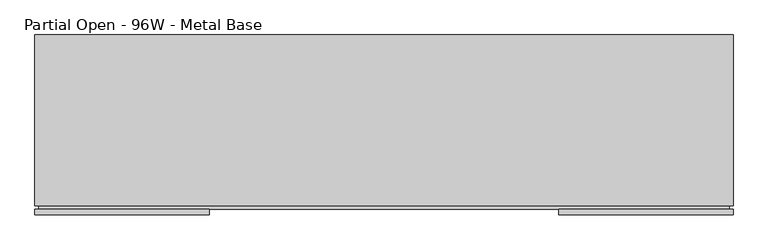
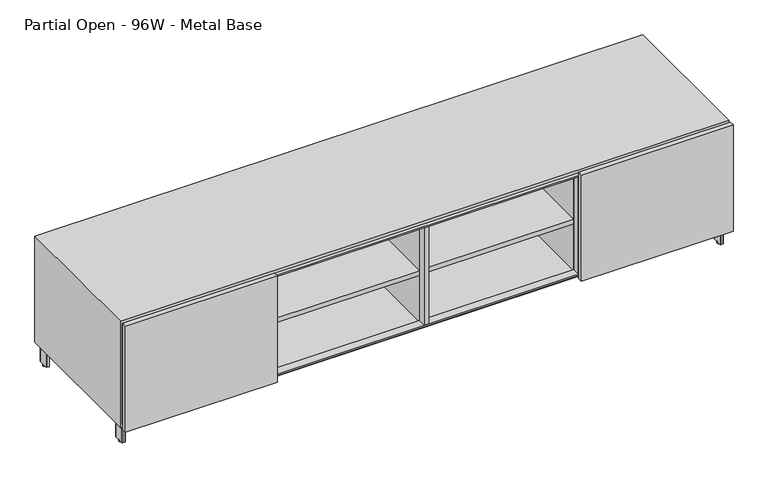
"""IFC4 building model written with IfcOpenShell, lengths in millimetres: furniture geometry, Steelcase Coalesse - Exponents - Storage - Credenza - 21H : Partial Open - 96W - Metal Base."""

from ifc_helpers import new_model, si_unit, point, frame, frame_2d, origin, origin_with_axes, place, context, project, spatial, polyline, circle_curve, trimmed, segment, composite_curve, outline, extrude, faceted_brep, source, transform, mapped, element, save


def partial_open_96w_metal_base_433a793f(model_context):
    return source(origin(), model_context, "Body", "SolidModel", [
        faceted_brep([(6.35, 31.75, 520.7), (6.35, 31.75, 95.25), (6.35, 622.3, 95.25), (6.35, 622.3, 520.7), (2432.05, 622.3, 95.25), (2432.05, 622.3, 520.7), (2432.05, 31.75, 95.25), (2432.05, 31.75, 520.7), (0.0, 31.75, 82.55), (2438.4, 31.75, 82.55), (2438.4, 31.75, 533.4), (0.0, 31.75, 533.4), (2438.4, 628.65, 82.55), (2438.4, 628.65, 533.4), (0.0, 628.65, 82.55), (0.0, 628.65, 533.4)], [[[0, 1, 2, 3]], [[3, 2, 4, 5]], [[5, 4, 6, 7]], [[8, 9, 10, 11], [7, 6, 1, 0]], [[10, 9, 12, 13]], [[13, 12, 14, 15]], [[15, 14, 8, 11]], [[7, 0, 3, 5]], [[10, 13, 15, 11]], [[1, 6, 4, 2]], [[12, 9, 8, 14]]]),
        extrude(outline(composite_curve([segment(polyline([(2414.7506426, 615.95), (2423.922, 615.95)]), True, "CONTINUOUS"), segment(trimmed(circle_curve(frame_2d((2423.922, 614.172)), 1.778), [point((2423.922, 615.95))], [point((2425.7, 614.172))], False, "CARTESIAN"), True, "CONTINUOUS"), segment(polyline([(2425.7, 614.172), (2425.7, 572.9986)]), True, "CONTINUOUS"), segment(trimmed(circle_curve(frame_2d((2423.922, 572.9986)), 1.778), [point((2425.7, 572.9986))], [point((2423.922, 571.2206))], False, "CARTESIAN"), True, "CONTINUOUS"), segment(polyline([(2423.922, 571.2206), (2414.7948916, 571.2206)]), True, "CONTINUOUS"), segment(trimmed(circle_curve(frame_2d((2414.7948916, 573.0154916)), 1.7948916), [point((2414.7948916, 571.2206))], [point((2413.0, 573.0154916))], False, "CARTESIAN"), True, "CONTINUOUS"), segment(polyline([(2413.0, 573.0154916), (2413.0, 614.1993574)]), True, "CONTINUOUS"), segment(trimmed(circle_curve(frame_2d((2414.7506426, 614.1993574)), 1.7506426), [point((2413.0, 614.1993574))], [point((2414.7506426, 615.95))], False, "CARTESIAN"), True, "CONTINUOUS")], self_intersect=False)), frame((0.0, 0.0, 6.35), z_axis=(0.0, 0.0, 1.0), x_axis=(1.0, 0.0, 0.0)), (0.0, 0.0, 1.0), 73.4568),
        extrude(outline(composite_curve([segment(polyline([(2414.7506426, 88.9), (2423.922, 88.9)]), True, "CONTINUOUS"), segment(trimmed(circle_curve(frame_2d((2423.922, 87.122)), 1.778), [point((2423.922, 88.9))], [point((2425.7, 87.122))], False, "CARTESIAN"), True, "CONTINUOUS"), segment(polyline([(2425.7, 87.122), (2425.7, 45.9486)]), True, "CONTINUOUS"), segment(trimmed(circle_curve(frame_2d((2423.922, 45.9486)), 1.778), [point((2425.7, 45.9486))], [point((2423.922, 44.1706))], False, "CARTESIAN"), True, "CONTINUOUS"), segment(polyline([(2423.922, 44.1706), (2414.7948916, 44.1706)]), True, "CONTINUOUS"), segment(trimmed(circle_curve(frame_2d((2414.7948916, 45.9654916)), 1.7948916), [point((2414.7948916, 44.1706))], [point((2413.0, 45.9654916))], False, "CARTESIAN"), True, "CONTINUOUS"), segment(polyline([(2413.0, 45.9654916), (2413.0, 87.1493574)]), True, "CONTINUOUS"), segment(trimmed(circle_curve(frame_2d((2414.7506426, 87.1493574)), 1.7506426), [point((2413.0, 87.1493574))], [point((2414.7506426, 88.9))], False, "CARTESIAN"), True, "CONTINUOUS")], self_intersect=False)), frame((0.0, 0.0, 6.35), z_axis=(0.0, 0.0, 1.0), x_axis=(1.0, 0.0, 0.0)), (0.0, 0.0, 1.0), 73.4568),
        extrude(outline(composite_curve([segment(trimmed(circle_curve(frame_2d((2419.35, 593.5667033)), 6.35), [point((2419.35, 599.9167033))], [point((2419.35, 587.2167033))], False, "CARTESIAN"), True, "CONTINUOUS"), segment(trimmed(circle_curve(frame_2d((2419.35, 593.5667033)), 6.35), [point((2419.35, 587.2167033))], [point((2419.35, 599.9167033))], False, "CARTESIAN"), True, "CONTINUOUS")], self_intersect=False)), origin_with_axes(), (0.0, 0.0, 1.0), 6.35),
        extrude(outline(composite_curve([segment(trimmed(circle_curve(frame_2d((2419.35, 66.7867854)), 6.35), [point((2419.35, 73.1367854))], [point((2419.35, 60.4367854))], False, "CARTESIAN"), True, "CONTINUOUS"), segment(trimmed(circle_curve(frame_2d((2419.35, 66.7867854)), 6.35), [point((2419.35, 60.4367854))], [point((2419.35, 73.1367854))], False, "CARTESIAN"), True, "CONTINUOUS")], self_intersect=False)), origin_with_axes(), (0.0, 0.0, 1.0), 6.35),
        extrude(outline(polyline([(1879.6, 379.0696809), (1879.6, 277.4696809), (1778.0, 277.4696809), (1778.0, 379.0696809), (1879.6, 379.0696809)])), frame((0.0, 0.0, 79.8068), z_axis=(0.0, 0.0, 1.0), x_axis=(1.0, 0.0, 0.0)), (0.0, 0.0, 1.0), 2.7432),
        extrude(outline(polyline([(520.7, 2425.7), (520.7, 12.7), (95.25, 12.7), (95.25, 2425.7), (520.7, 2425.7)]), holes=[polyline([(514.35, 2419.35), (101.6, 2419.35), (101.6, 19.05), (514.35, 19.05), (514.35, 2419.35)])]), frame((0.0, 19.05, 0.0), z_axis=(0.0, 1.0, 0.0), x_axis=(0.0, 0.0, 1.0)), (0.0, 0.0, 1.0), 31.75),
        extrude(outline(composite_curve([segment(polyline([(1821.0256426, 349.25), (1836.547, 349.25)]), True, "CONTINUOUS"), segment(trimmed(circle_curve(frame_2d((1836.547, 347.472)), 1.778), [point((1836.547, 349.25))], [point((1838.325, 347.472))], False, "CARTESIAN"), True, "CONTINUOUS"), segment(polyline([(1838.325, 347.472), (1838.325, 312.928)]), True, "CONTINUOUS"), segment(trimmed(circle_curve(frame_2d((1836.547, 312.928)), 1.778), [point((1838.325, 312.928))], [point((1836.547, 311.15))], False, "CARTESIAN"), True, "CONTINUOUS"), segment(polyline([(1836.547, 311.15), (1821.0698916, 311.15)]), True, "CONTINUOUS"), segment(trimmed(circle_curve(frame_2d((1821.0698916, 312.9448916)), 1.7948916), [point((1821.0698916, 311.15))], [point((1819.275, 312.9448916))], False, "CARTESIAN"), True, "CONTINUOUS"), segment(polyline([(1819.275, 312.9448916), (1819.275, 347.4993574)]), True, "CONTINUOUS"), segment(trimmed(circle_curve(frame_2d((1821.0256426, 347.4993574)), 1.7506426), [point((1819.275, 347.4993574))], [point((1821.0256426, 349.25))], False, "CARTESIAN"), True, "CONTINUOUS")], self_intersect=False)), frame((0.0, 0.0, 6.35), z_axis=(0.0, 0.0, 1.0), x_axis=(1.0, 0.0, 0.0)), (0.0, 0.0, 1.0), 73.4568),
        extrude(outline(polyline([(1830.0800308, 345.280854), (2413.0, 598.591626), (2413.0, 577.8206777), (1843.1741031, 330.2), (2413.0, 82.5793223), (2413.0, 61.808374), (1830.377267, 314.9899805), (1836.8101738, 329.7934165), (1830.0800308, 345.280854)])), frame((0.0, 0.0, 34.925), z_axis=(0.0, 0.0, 1.0), x_axis=(1.0, 0.0, 0.0)), (0.0, 0.0, 1.0), 44.8818),
        extrude(outline(polyline([(2432.05, 520.7), (2330.45, 520.7), (2330.45, 622.3), (2432.05, 622.3), (2432.05, 520.7)])), frame((0.0, 0.0, 79.8068), z_axis=(0.0, 0.0, 1.0), x_axis=(1.0, 0.0, 0.0)), (0.0, 0.0, 1.0), 2.7432),
        extrude(outline(polyline([(2432.05, 139.7), (2432.05, 38.1), (2330.45, 38.1), (2330.45, 139.7), (2432.05, 139.7)])), frame((0.0, 0.0, 79.8068), z_axis=(0.0, 0.0, 1.0), x_axis=(1.0, 0.0, 0.0)), (0.0, 0.0, 1.0), 2.7432),
        extrude(outline(composite_curve([segment(trimmed(circle_curve(frame_2d((1828.6250692, 330.5590189)), 6.35), [point((1828.6250692, 336.9090189))], [point((1828.6250692, 324.2090189))], False, "CARTESIAN"), True, "CONTINUOUS"), segment(trimmed(circle_curve(frame_2d((1828.6250692, 330.5590189)), 6.35), [point((1828.6250692, 324.2090189))], [point((1828.6250692, 336.9090189))], False, "CARTESIAN"), True, "CONTINUOUS")], self_intersect=False)), origin_with_axes(), (0.0, 0.0, 1.0), 6.35),
        extrude(outline(composite_curve([segment(trimmed(circle_curve(frame_2d((1219.2, 330.5590189)), 6.35), [point((1219.2, 324.2090189))], [point((1219.2, 336.9090189))], False, "CARTESIAN"), True, "CONTINUOUS"), segment(trimmed(circle_curve(frame_2d((1219.2, 330.5590189)), 6.35), [point((1219.2, 336.9090189))], [point((1219.2, 324.2090189))], False, "CARTESIAN"), True, "CONTINUOUS")], self_intersect=False)), origin_with_axes(), (0.0, 0.0, 1.0), 6.35),
        extrude(outline(polyline([(1168.4, 379.0696809), (1270.0, 379.0696809), (1270.0, 277.4696809), (1168.4, 277.4696809), (1168.4, 379.0696809)])), frame((0.0, 0.0, 79.8068), z_axis=(0.0, 0.0, 1.0), x_axis=(1.0, 0.0, 0.0)), (0.0, 0.0, 1.0), 2.7432),
        extrude(outline(composite_curve([segment(trimmed(circle_curve(frame_2d((1226.9743574, 347.4993574)), 1.7506426), [point((1226.9743574, 349.25))], [point((1228.725, 347.4993574))], False, "CARTESIAN"), True, "CONTINUOUS"), segment(polyline([(1228.725, 347.4993574), (1228.725, 312.9448916)]), True, "CONTINUOUS"), segment(trimmed(circle_curve(frame_2d((1226.9301084, 312.9448916)), 1.7948916), [point((1228.725, 312.9448916))], [point((1226.9301084, 311.15))], False, "CARTESIAN"), True, "CONTINUOUS"), segment(polyline([(1226.9301084, 311.15), (1211.453, 311.15)]), True, "CONTINUOUS"), segment(trimmed(circle_curve(frame_2d((1211.453, 312.928)), 1.778), [point((1211.453, 311.15))], [point((1209.675, 312.928))], False, "CARTESIAN"), True, "CONTINUOUS"), segment(polyline([(1209.675, 312.928), (1209.675, 347.472)]), True, "CONTINUOUS"), segment(trimmed(circle_curve(frame_2d((1211.453, 347.472)), 1.778), [point((1209.675, 347.472))], [point((1211.453, 349.25))], False, "CARTESIAN"), True, "CONTINUOUS"), segment(polyline([(1211.453, 349.25), (1226.9743574, 349.25)]), True, "CONTINUOUS")], self_intersect=False)), frame((0.0, 0.0, 6.35), z_axis=(0.0, 0.0, 1.0), x_axis=(1.0, 0.0, 0.0)), (0.0, 0.0, 1.0), 73.4568),
        extrude(outline(polyline([(2438.4, 19.05), (2438.4, 0.0), (1829.435, 0.0), (1829.435, 19.05), (2438.4, 19.05)])), frame((0.0, 0.0, 82.55), z_axis=(0.0, 0.0, 1.0), x_axis=(1.0, 0.0, 0.0)), (0.0, 0.0, 1.0), 450.85),
        extrude(outline(composite_curve([segment(trimmed(circle_curve(frame_2d((23.6493574, 614.1993574)), 1.7506426), [point((23.6493574, 615.95))], [point((25.4, 614.1993574))], False, "CARTESIAN"), True, "CONTINUOUS"), segment(polyline([(25.4, 614.1993574), (25.4, 573.0154916)]), True, "CONTINUOUS"), segment(trimmed(circle_curve(frame_2d((23.6051084, 573.0154916)), 1.7948916), [point((25.4, 573.0154916))], [point((23.6051084, 571.2206))], False, "CARTESIAN"), True, "CONTINUOUS"), segment(polyline([(23.6051084, 571.2206), (14.478, 571.2206)]), True, "CONTINUOUS"), segment(trimmed(circle_curve(frame_2d((14.478, 572.9986)), 1.778), [point((14.478, 571.2206))], [point((12.7, 572.9986))], False, "CARTESIAN"), True, "CONTINUOUS"), segment(polyline([(12.7, 572.9986), (12.7, 614.172)]), True, "CONTINUOUS"), segment(trimmed(circle_curve(frame_2d((14.478, 614.172)), 1.778), [point((12.7, 614.172))], [point((14.478, 615.95))], False, "CARTESIAN"), True, "CONTINUOUS"), segment(polyline([(14.478, 615.95), (23.6493574, 615.95)]), True, "CONTINUOUS")], self_intersect=False)), frame((0.0, 0.0, 6.35), z_axis=(0.0, 0.0, 1.0), x_axis=(1.0, 0.0, 0.0)), (0.0, 0.0, 1.0), 73.4568),
        extrude(outline(composite_curve([segment(trimmed(circle_curve(frame_2d((23.6493574, 87.1493574)), 1.7506426), [point((23.6493574, 88.9))], [point((25.4, 87.1493574))], False, "CARTESIAN"), True, "CONTINUOUS"), segment(polyline([(25.4, 87.1493574), (25.4, 45.9654916)]), True, "CONTINUOUS"), segment(trimmed(circle_curve(frame_2d((23.6051084, 45.9654916)), 1.7948916), [point((25.4, 45.9654916))], [point((23.6051084, 44.1706))], False, "CARTESIAN"), True, "CONTINUOUS"), segment(polyline([(23.6051084, 44.1706), (14.478, 44.1706)]), True, "CONTINUOUS"), segment(trimmed(circle_curve(frame_2d((14.478, 45.9486)), 1.778), [point((14.478, 44.1706))], [point((12.7, 45.9486))], False, "CARTESIAN"), True, "CONTINUOUS"), segment(polyline([(12.7, 45.9486), (12.7, 87.122)]), True, "CONTINUOUS"), segment(trimmed(circle_curve(frame_2d((14.478, 87.122)), 1.778), [point((12.7, 87.122))], [point((14.478, 88.9))], False, "CARTESIAN"), True, "CONTINUOUS"), segment(polyline([(14.478, 88.9), (23.6493574, 88.9)]), True, "CONTINUOUS")], self_intersect=False)), frame((0.0, 0.0, 6.35), z_axis=(0.0, 0.0, 1.0), x_axis=(1.0, 0.0, 0.0)), (0.0, 0.0, 1.0), 73.4568),
        extrude(outline(composite_curve([segment(trimmed(circle_curve(frame_2d((617.3743574, 347.4993574)), 1.7506426), [point((617.3743574, 349.25))], [point((619.125, 347.4993574))], False, "CARTESIAN"), True, "CONTINUOUS"), segment(polyline([(619.125, 347.4993574), (619.125, 312.9448916)]), True, "CONTINUOUS"), segment(trimmed(circle_curve(frame_2d((617.3301084, 312.9448916)), 1.7948916), [point((619.125, 312.9448916))], [point((617.3301084, 311.15))], False, "CARTESIAN"), True, "CONTINUOUS"), segment(polyline([(617.3301084, 311.15), (601.853, 311.15)]), True, "CONTINUOUS"), segment(trimmed(circle_curve(frame_2d((601.853, 312.928)), 1.778), [point((601.853, 311.15))], [point((600.075, 312.928))], False, "CARTESIAN"), True, "CONTINUOUS"), segment(polyline([(600.075, 312.928), (600.075, 347.472)]), True, "CONTINUOUS"), segment(trimmed(circle_curve(frame_2d((601.853, 347.472)), 1.778), [point((600.075, 347.472))], [point((601.853, 349.25))], False, "CARTESIAN"), True, "CONTINUOUS"), segment(polyline([(601.853, 349.25), (617.3743574, 349.25)]), True, "CONTINUOUS")], self_intersect=False)), frame((0.0, 0.0, 6.35), z_axis=(0.0, 0.0, 1.0), x_axis=(1.0, 0.0, 0.0)), (0.0, 0.0, 1.0), 73.4568),
        extrude(outline(polyline([(608.3199692, 345.280854), (601.5898262, 329.7934165), (608.022733, 314.9899805), (25.4, 61.808374), (25.4, 82.5793223), (595.2258969, 330.2), (25.4, 577.8206777), (25.4, 598.591626), (608.3199692, 345.280854)])), frame((0.0, 0.0, 34.925), z_axis=(0.0, 0.0, 1.0), x_axis=(1.0, 0.0, 0.0)), (0.0, 0.0, 1.0), 44.8818),
        extrude(outline(polyline([(6.35, 520.7), (6.35, 622.3), (107.95, 622.3), (107.95, 520.7), (6.35, 520.7)])), frame((0.0, 0.0, 79.8068), z_axis=(0.0, 0.0, 1.0), x_axis=(1.0, 0.0, 0.0)), (0.0, 0.0, 1.0), 2.7432),
        extrude(outline(polyline([(6.35, 139.7), (107.95, 139.7), (107.95, 38.1), (6.35, 38.1), (6.35, 139.7)])), frame((0.0, 0.0, 79.8068), z_axis=(0.0, 0.0, 1.0), x_axis=(1.0, 0.0, 0.0)), (0.0, 0.0, 1.0), 2.7432),
        extrude(outline(polyline([(558.8, 379.0696809), (660.4, 379.0696809), (660.4, 277.4696809), (558.8, 277.4696809), (558.8, 379.0696809)])), frame((0.0, 0.0, 79.8068), z_axis=(0.0, 0.0, 1.0), x_axis=(1.0, 0.0, 0.0)), (0.0, 0.0, 1.0), 2.7432),
        extrude(outline(polyline([(608.965, 19.05), (608.965, 0.0), (0.0, 0.0), (0.0, 19.05), (608.965, 19.05)])), frame((0.0, 0.0, 82.55), z_axis=(0.0, 0.0, 1.0), x_axis=(1.0, 0.0, 0.0)), (0.0, 0.0, 1.0), 450.85),
        extrude(outline(composite_curve([segment(trimmed(circle_curve(frame_2d((19.05, 593.5667033)), 6.35), [point((12.7, 593.5667033))], [point((25.4, 593.5667033))], False, "CARTESIAN"), True, "CONTINUOUS"), segment(trimmed(circle_curve(frame_2d((19.05, 593.5667033)), 6.35), [point((25.4, 593.5667033))], [point((12.7, 593.5667033))], False, "CARTESIAN"), True, "CONTINUOUS")], self_intersect=False)), origin_with_axes(), (0.0, 0.0, 1.0), 6.35),
        extrude(outline(composite_curve([segment(trimmed(circle_curve(frame_2d((19.05, 66.7867854)), 6.35), [point((12.7, 66.7867854))], [point((25.4, 66.7867854))], False, "CARTESIAN"), True, "CONTINUOUS"), segment(trimmed(circle_curve(frame_2d((19.05, 66.7867854)), 6.35), [point((25.4, 66.7867854))], [point((12.7, 66.7867854))], False, "CARTESIAN"), True, "CONTINUOUS")], self_intersect=False)), origin_with_axes(), (0.0, 0.0, 1.0), 6.35),
        extrude(outline(composite_curve([segment(trimmed(circle_curve(frame_2d((609.7749308, 330.5590189)), 6.35), [point((603.4249308, 330.5590189))], [point((616.1249308, 330.5590189))], False, "CARTESIAN"), True, "CONTINUOUS"), segment(trimmed(circle_curve(frame_2d((609.7749308, 330.5590189)), 6.35), [point((616.1249308, 330.5590189))], [point((603.4249308, 330.5590189))], False, "CARTESIAN"), True, "CONTINUOUS")], self_intersect=False)), origin_with_axes(), (0.0, 0.0, 1.0), 6.35),
        extrude(outline(polyline([(0.0, -19.05), (0.0, 0.0), (31.75, 0.0), (31.75, -19.05), (0.0, -19.05)])), frame((1828.8, 19.05, 101.6), z_axis=(2.934541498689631e-12, 0.0, 1.0), x_axis=(0.0, 1.0, 0.0)), (0.0, 0.0, 1.0), 412.75),
        extrude(outline(polyline([(0.0, -19.05), (0.0, 0.0), (31.75, 0.0), (31.75, -19.05), (0.0, -19.05)])), frame((1209.675, 19.05, 101.6), z_axis=(3.1477043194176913e-12, 0.0, 1.0), x_axis=(0.0, 1.0, 0.0)), (0.0, 0.0, 1.0), 412.75),
        extrude(outline(polyline([(0.0, -19.05), (0.0, 0.0), (31.75, 0.0), (31.75, -19.05), (0.0, -19.05)])), frame((590.55, 19.05, 101.6), z_axis=(3.3608671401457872e-12, 0.0, 1.0), x_axis=(0.0, 1.0, 0.0)), (0.0, 0.0, 1.0), 412.75),
        extrude(outline(polyline([(1209.675, 609.6), (1228.725, 609.6), (1228.725, 50.8), (1209.675, 50.8), (1209.675, 609.6)])), frame((0.0, 0.0, 95.25), z_axis=(0.0, 0.0, 1.0), x_axis=(1.0, 0.0, 0.0)), (0.0, 0.0, 1.0), 425.45),
        extrude(outline(polyline([(1828.8, 609.6), (1847.85, 609.6), (1847.85, 50.8), (1828.8, 50.8), (1828.8, 609.6)])), frame((0.0, 0.0, 95.25), z_axis=(0.0, 0.0, 1.0), x_axis=(1.0, 0.0, 0.0)), (0.0, 0.0, 1.0), 425.45),
        extrude(outline(polyline([(1828.8, 50.8), (1228.725, 50.8), (1228.725, 609.6), (1828.8, 609.6), (1828.8, 50.8)])), frame((0.0, 0.0, 295.275), z_axis=(0.0, 0.0, 1.0), x_axis=(1.0, 0.0, 0.0)), (0.0, 0.0, 1.0), 19.05),
        extrude(outline(polyline([(1209.675, 50.8), (609.6, 50.8), (609.6, 609.6), (1209.675, 609.6), (1209.675, 50.8)])), frame((0.0, 0.0, 295.275), z_axis=(0.0, 0.0, 1.0), x_axis=(1.0, 0.0, 0.0)), (0.0, 0.0, 1.0), 19.05),
        extrude(outline(polyline([(590.55, 609.6), (609.6, 609.6), (609.6, 50.8), (590.55, 50.8), (590.55, 609.6)])), frame((0.0, 0.0, 95.25), z_axis=(0.0, 0.0, 1.0), x_axis=(1.0, 0.0, 0.0)), (0.0, 0.0, 1.0), 425.45),
    ])


if __name__ == "__main__":
    model = new_model("IFC4")
    model_context = context("Model", 3, world=origin())
    ifc_project = project(units=[si_unit("LENGTHUNIT", "METRE", prefix="MILLI")], contexts=[model_context])
    site = spatial("IfcSite", under=ifc_project)
    building = spatial("IfcBuilding", under=site)
    placement = place(None, origin())
    partial_open_96w_metal_base_shape = partial_open_96w_metal_base_433a793f(model_context)
    element("IfcFurniture", 1, ObjectType="Steelcase Coalesse - Exponents - Storage - Credenza - 21H : Partial Open - 96W - Metal Base", at=placement, inside=building, context=model_context, shape_type="MappedRepresentation", body=[
        mapped(partial_open_96w_metal_base_shape, transform((0.0, 0.0, 0.0), x_axis=(1.0, 0.0, 0.0), y_axis=(0.0, 1.0, 0.0), z_axis=(0.0, 0.0, 1.0))),
    ])
    save(model, "model.ifc")
